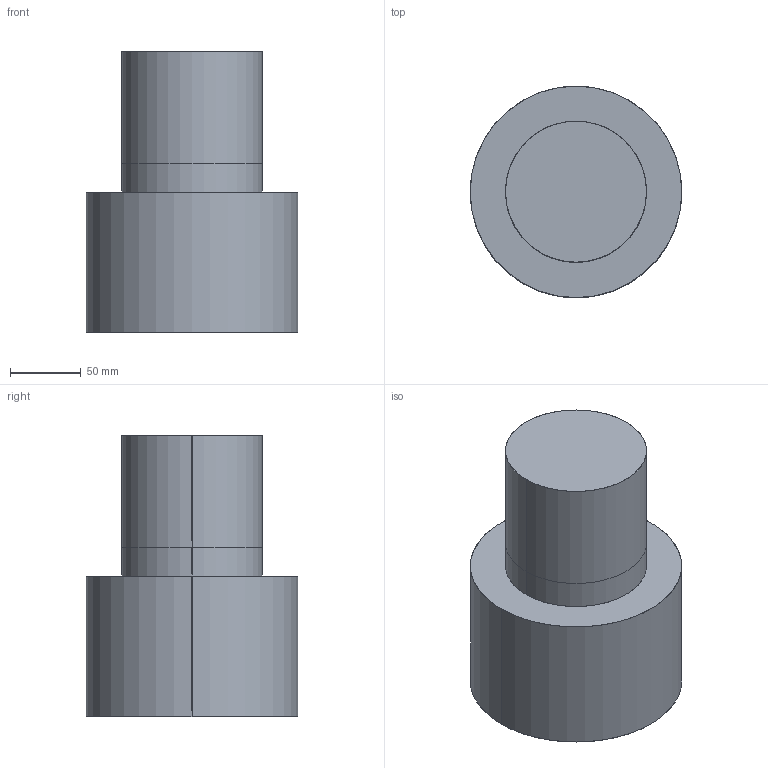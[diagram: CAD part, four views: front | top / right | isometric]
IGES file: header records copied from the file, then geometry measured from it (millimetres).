
Start section: SolidWorks IGES file using analytic representation for surfaces
Global section: file name: C:\Users\Santus\Desktop\Albero_NoRacc.IGS; native system: SolidWorks 2016; preprocessor: SolidWorks 2016; author: Santus; date: 171127.153945; units: millimetre
Bounding box: 150 x 150 x 200 mm (x, y, z)
Surface area: 113882.8 mm2 (no closed solid volume)
Topology: 0 solids, 0 shells, 9 faces, 280 edges, 280 vertices
Faces by surface type: revolution 6, bspline 3
